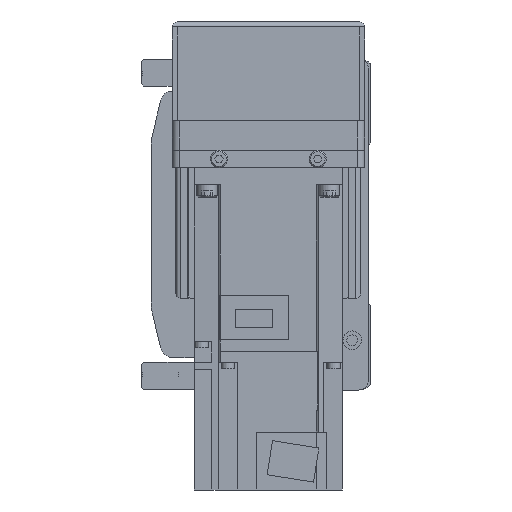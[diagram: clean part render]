
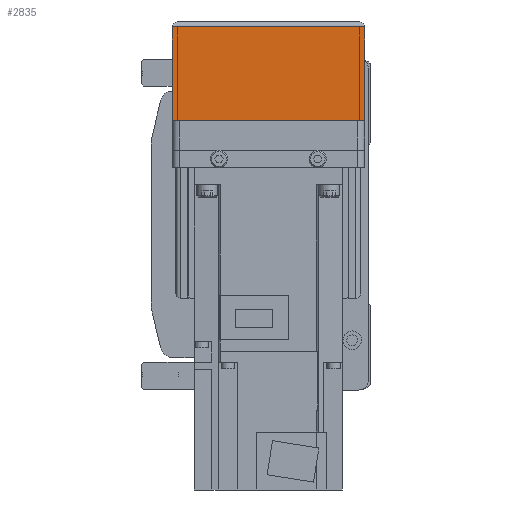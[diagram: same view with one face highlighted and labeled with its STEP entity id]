
A CAD part, left-side view. The second image highlights one B-rep face of the part: STEP entity #2835.
In plain terms, the highlighted planar face has unit normal (-1, 0, 0).
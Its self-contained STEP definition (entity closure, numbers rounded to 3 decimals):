
#2835 = ADVANCED_FACE( '', ( #6047 ), #6048, .F. );
#6047 = FACE_OUTER_BOUND( '', #9489, .T. );
#6048 = PLANE( '', #9490 );
#9489 = EDGE_LOOP( '', ( #17507, #17508, #17509, #17510 ) );
#9490 = AXIS2_PLACEMENT_3D( '', #17511, #17512, #17513 );
#17507 = ORIENTED_EDGE( '', *, *, #22449, .F. );
#17508 = ORIENTED_EDGE( '', *, *, #22660, .F. );
#17509 = ORIENTED_EDGE( '', *, *, #21369, .T. );
#17510 = ORIENTED_EDGE( '', *, *, #22661, .F. );
#17511 = CARTESIAN_POINT( '', ( -158., 36., 7. ) );
#17512 = DIRECTION( '', ( 1., 0., 0. ) );
#17513 = DIRECTION( '', ( 0., 0., -1. ) );
#21369 = EDGE_CURVE( '', #26044, #26238, #26240, .T. );
#22449 = EDGE_CURVE( '', #27712, #23014, #27714, .T. );
#22660 = EDGE_CURVE( '', #26044, #27712, #27960, .T. );
#22661 = EDGE_CURVE( '', #23014, #26238, #27961, .T. );
#23014 = VERTEX_POINT( '', #28341 );
#26044 = VERTEX_POINT( '', #33044 );
#26238 = VERTEX_POINT( '', #33314 );
#26240 = LINE( '', #33316, #33317 );
#27712 = VERTEX_POINT( '', #35454 );
#27714 = LINE( '', #35457, #35458 );
#27960 = LINE( '', #35777, #35778 );
#27961 = LINE( '', #35779, #35780 );
#28341 = CARTESIAN_POINT( '', ( -158., -39., -12.1 ) );
#33044 = CARTESIAN_POINT( '', ( -158., 39., -50. ) );
#33314 = CARTESIAN_POINT( '', ( -158., -39., -50. ) );
#33316 = CARTESIAN_POINT( '', ( -158., 40., -50. ) );
#33317 = VECTOR( '', #38745, 1000. );
#35454 = CARTESIAN_POINT( '', ( -158., 39., -12.1 ) );
#35457 = CARTESIAN_POINT( '', ( -158., 50., -12.1 ) );
#35458 = VECTOR( '', #40001, 1000. );
#35777 = CARTESIAN_POINT( '', ( -158., 39., -50. ) );
#35778 = VECTOR( '', #40239, 1000. );
#35779 = CARTESIAN_POINT( '', ( -158., -39., -12.1 ) );
#35780 = VECTOR( '', #40240, 1000. );
#38745 = DIRECTION( '', ( 0., -1., 0. ) );
#40001 = DIRECTION( '', ( 0., -1., 0. ) );
#40239 = DIRECTION( '', ( 0., 0., 1. ) );
#40240 = DIRECTION( '', ( 0., 0., -1. ) );
